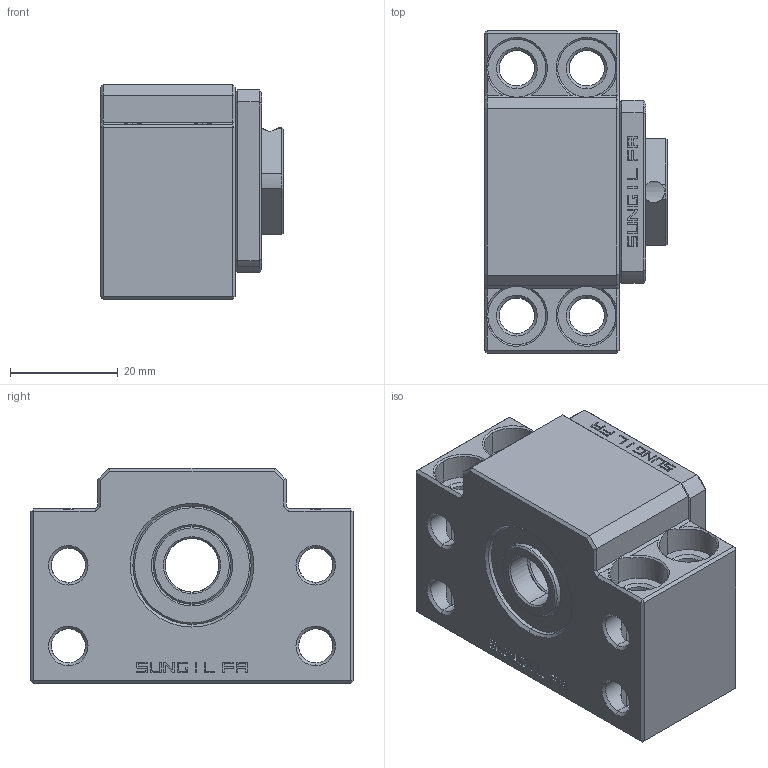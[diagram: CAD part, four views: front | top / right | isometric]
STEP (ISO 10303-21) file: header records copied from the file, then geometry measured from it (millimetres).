
FILE_DESCRIPTION (( 'STEP AP203' ), '1' );
FILE_NAME ('SBK10_STP.STEP', '2006-01-20T11:34:13', ( '歜煽繹' ), ( '' ), 'SwSTEP 2.0', 'SolidWorks 2003240', '' );
FILE_SCHEMA (( 'CONFIG_CONTROL_DESIGN' ));
Length unit declared in the file: millimetre
Products named in the file (10): SBK10(collar)_晦獄 撲薑; SBK10(holdinglid)_晦獄 撲薑; SBK10(bearing)1_晦獄 撲薑; SBK10(bearing)_晦獄 撲薑; SBK10_STP; SBK10(seal)_晦獄 撲薑; SBK10(collar)1_晦獄 撲薑; SBK10(seal)1_晦獄 撲薑; SBK10(housing)_晦獄 撲薑; SBK10(locknut)_晦獄 撲薑
Assembly tree (9 placements, depth 2):
  SBK10_STP
    SBK10(bearing)1_晦獄 撲薑
    SBK10(collar)1_晦獄 撲薑
    SBK10(holdinglid)_晦獄 撲薑
    SBK10(locknut)_晦獄 撲薑
    SBK10(collar)_晦獄 撲薑
    SBK10(bearing)_晦獄 撲薑
    SBK10(seal)_晦獄 撲薑
    SBK10(seal)1_晦獄 撲薑
    SBK10(housing)_晦獄 撲薑
Bounding box: 34 x 60 x 40 mm (x, y, z)
Volume: 48878.1 mm3; surface area: 24387.4 mm2
Topology: 9 solids, 9 shells, 859 faces, 2221 edges, 1416 vertices
Faces by surface type: plane 355, cylinder 344, cone 154, torus 4, bspline 2
Entity records: 28754 total; most frequent: CARTESIAN_POINT 6088, DIRECTION 4704, ORIENTED_EDGE 4438, EDGE_CURVE 2219, AXIS2_PLACEMENT_3D 1708, VERTEX_POINT 1414, LINE 1288, VECTOR 1288
